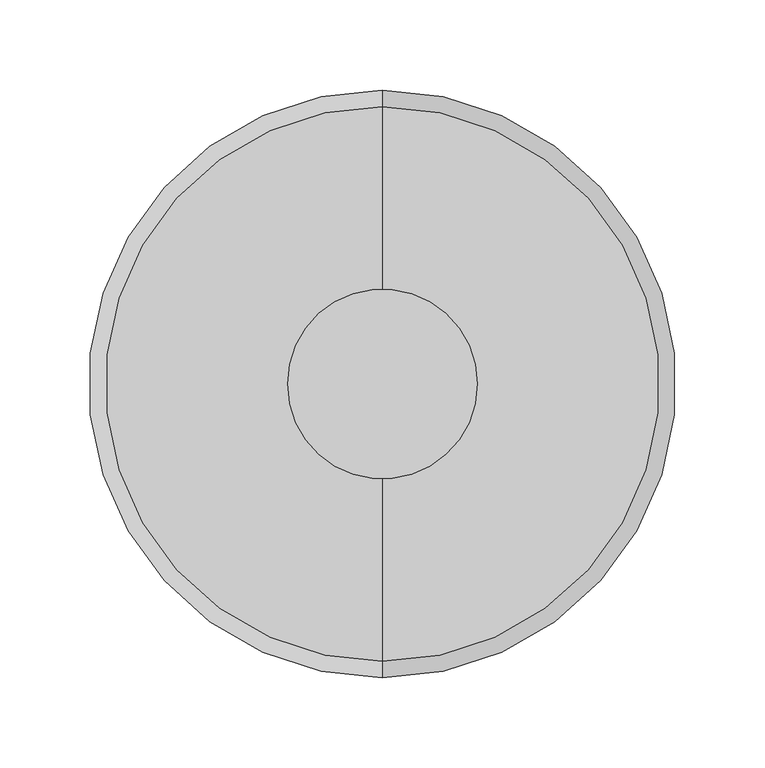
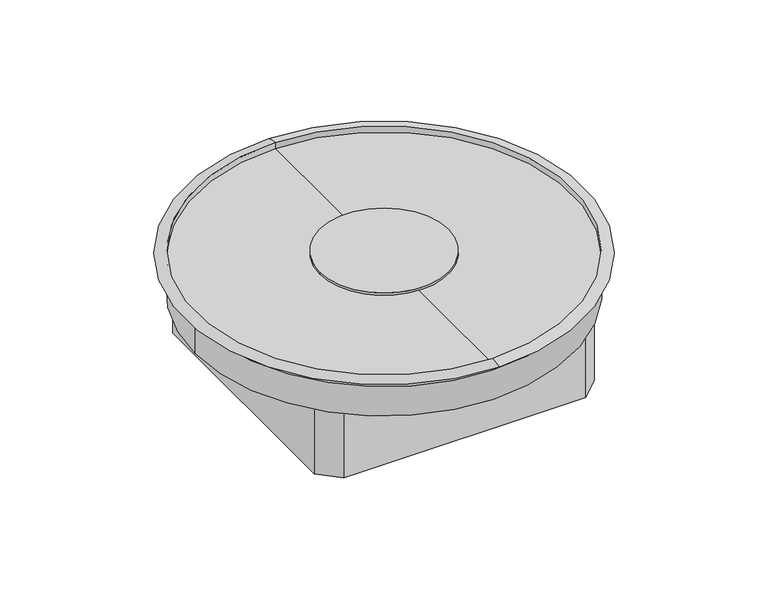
"""IFC4 building model written with IfcOpenShell, lengths in millimetres: proxy geometry, Electrical_Installation_Hager_VE-EE_VANR_3mm_Service-unit-for-wet-cleaned-floors-for-the-installation-tube-cable-outlet-made-of-aluminium : Service unit R12 w set HB wet Al-Tub 3mm."""

import ifcopenshell
import ifcopenshell.guid

model = None  # the IFC model being written
_history = None  # IfcOwnerHistory: only IFC2X3 demands one
_inside = {}  # id of a spatial element -> (the spatial element, [elements in it])
_under = {}  # id of a project, library or spatial element -> (it, [spatial elements below it])
_declared = {}  # id of a project -> (the project, [libraries it declares])
_typed = {}  # id of a type object -> (the type object, [elements of that type])
_made_of = {}  # id of a material, layer set ... -> (it, [elements and type objects made of it])


def new_model(schema):
    """Start an empty IFC model of exactly this schema.

    Asked for "IFC4X3", IfcOpenShell would pick the latest addendum, in which some entities
    have other attributes; the version numbers below select the first issue.
    IFC2X3 requires an IfcOwnerHistory on every rooted entity: one is made here for all.
    """
    global model, _history
    if schema == "IFC4X3":
        model = ifcopenshell.file(schema_version=(4, 3, 0, 0))
    else:
        model = ifcopenshell.file(schema=schema)
    _inside.clear()
    _under.clear()
    _declared.clear()
    _typed.clear()
    _made_of.clear()
    _history = None
    if model.schema == "IFC2X3":
        org = make("IfcOrganization", Name="unknown")
        user = make(
            "IfcPersonAndOrganization",
            ThePerson=make("IfcPerson", FamilyName="unknown"),
            TheOrganization=org,
        )
        app = make(
            "IfcApplication",
            ApplicationDeveloper=org,
            Version="unknown",
            ApplicationFullName="unknown",
            ApplicationIdentifier="unknown",
        )
        _history = make(
            "IfcOwnerHistory",
            OwningUser=user,
            OwningApplication=app,
            ChangeAction="ADDED",
            CreationDate=0,
        )
    return model


def make(cls, **values):
    """One entity of the class cls with the attributes given. An attribute that is None is left unset."""
    return model.create_entity(
        cls, **{name: value for name, value in values.items() if value is not None}
    )


def rooted(cls, **values):
    """An entity with a GlobalId (a new one), such as an element, a storey or a relation."""
    return make(cls, GlobalId=ifcopenshell.guid.new(), OwnerHistory=_history, **values)


def si_unit(unit_type, name, prefix=None):
    """IfcSIUnit, for example si_unit("LENGTHUNIT", "METRE", prefix="MILLI")."""
    return make("IfcSIUnit", UnitType=unit_type, Prefix=prefix, Name=name)


def assignment(units):
    """IfcUnitAssignment: the units of a project."""
    return None if units is None else make("IfcUnitAssignment", Units=units)


def point(xyz):
    """IfcCartesianPoint."""
    return None if xyz is None else make("IfcCartesianPoint", Coordinates=xyz)


def direction(xyz):
    """IfcDirection."""
    return None if xyz is None else make("IfcDirection", DirectionRatios=xyz)


def frame(location, z_axis=None, x_axis=None):
    """IfcAxis2Placement3D, a coordinate frame: its origin and axes. An axis left out is left unset."""
    return make(
        "IfcAxis2Placement3D",
        Location=point(location),
        Axis=direction(z_axis),
        RefDirection=direction(x_axis),
    )


def frame_2d(location, x_axis=None):
    """IfcAxis2Placement2D, a coordinate frame in the plane: its origin and x axis."""
    return make(
        "IfcAxis2Placement2D", Location=point(location), RefDirection=direction(x_axis)
    )


def origin():
    """The frame at (0, 0, 0) with its axes left unset."""
    return frame((0.0, 0.0, 0.0))


def origin_with_axes():
    """The frame at (0, 0, 0) with the z axis (0, 0, 1) and the x axis (1, 0, 0) written out."""
    return frame((0.0, 0.0, 0.0), z_axis=(0.0, 0.0, 1.0), x_axis=(1.0, 0.0, 0.0))


def origin_2d():
    """The frame at (0, 0) in the plane with its x axis left unset."""
    return frame_2d((0.0, 0.0))


def place(relative_to, where):
    """IfcLocalPlacement: puts the frame where relative to a parent placement (None: the world)."""
    return make(
        "IfcLocalPlacement", PlacementRelTo=relative_to, RelativePlacement=where
    )


def context(
    kind, dimensions, precision=None, world=None, true_north=None, identifier=None
):
    """IfcGeometricRepresentationContext, for example the 3D "Model" context."""
    return make(
        "IfcGeometricRepresentationContext",
        ContextIdentifier=identifier,
        ContextType=kind,
        CoordinateSpaceDimension=dimensions,
        Precision=precision,
        WorldCoordinateSystem=world,
        TrueNorth=true_north,
    )


def project(units=None, contexts=None):
    """IfcProject with its units and contexts."""
    return rooted(
        "IfcProject",
        Name="project",
        RepresentationContexts=contexts,
        UnitsInContext=assignment(units),
    )


def spatial(cls, under=None, at=None, **own):
    """A site, building, storey or space (cls), placed at a placement, below another one or the project."""
    s = rooted(cls, ObjectPlacement=at, **own)
    if under is not None:
        _under.setdefault(under.id(), (under, []))[1].append(s)
    return s


def polyline(points):
    """IfcPolyline through the points."""
    return make("IfcPolyline", Points=[point(p) for p in points])


def circle_curve(where, radius):
    """IfcCircle in the frame where."""
    return make("IfcCircle", Position=where, Radius=radius)


def ellipse_curve(where, semi_axis1, semi_axis2):
    """IfcEllipse in the frame where."""
    return make(
        "IfcEllipse", Position=where, SemiAxis1=semi_axis1, SemiAxis2=semi_axis2
    )


def trimmed(basis, trim1, trim2, sense, master):
    """IfcTrimmedCurve: the piece of a basis curve between two trims."""
    return make(
        "IfcTrimmedCurve",
        BasisCurve=basis,
        Trim1=trim1,
        Trim2=trim2,
        SenseAgreement=sense,
        MasterRepresentation=master,
    )


def segment(curve, same_sense, transition):
    """IfcCompositeCurveSegment."""
    return make(
        "IfcCompositeCurveSegment",
        Transition=transition,
        SameSense=same_sense,
        ParentCurve=curve,
    )


def composite_curve(segments, self_intersect=None):
    """IfcCompositeCurve: segments joined end to end."""
    return make("IfcCompositeCurve", Segments=segments, SelfIntersect=self_intersect)


def outline(outer, holes=None, kind="AREA"):
    """IfcArbitraryClosedProfileDef: a profile drawn as a closed curve; with holes, ...WithVoids."""
    if holes is None:
        return make("IfcArbitraryClosedProfileDef", ProfileType=kind, OuterCurve=outer)
    return make(
        "IfcArbitraryProfileDefWithVoids",
        ProfileType=kind,
        OuterCurve=outer,
        InnerCurves=holes,
    )


def extrude(swept, where, along, depth):
    """IfcExtrudedAreaSolid: the profile swept, set in the frame where, extruded along a direction by depth."""
    return make(
        "IfcExtrudedAreaSolid",
        SweptArea=swept,
        Position=where,
        ExtrudedDirection=direction(along),
        Depth=depth,
    )


def shape(context_of_items, identifier, shape_type, items):
    """IfcShapeRepresentation: the items that make up one representation, for example the "Body"."""
    return make(
        "IfcShapeRepresentation",
        ContextOfItems=context_of_items,
        RepresentationIdentifier=identifier,
        RepresentationType=shape_type,
        Items=items,
    )


def source(mapping_origin, context_of_items, identifier, shape_type, items):
    """IfcRepresentationMap: a shape defined once, which mapped items show again and again."""
    return make(
        "IfcRepresentationMap",
        MappingOrigin=mapping_origin,
        MappedRepresentation=shape(context_of_items, identifier, shape_type, items),
    )


def transform(
    local_origin,
    x_axis=None,
    y_axis=None,
    z_axis=None,
    scale=None,
    scale2=None,
    scale3=None,
    uniform=True,
):
    """IfcCartesianTransformationOperator3D, or its non-uniform kind. x_axis, y_axis, z_axis: its Axis1, 2, 3."""
    if uniform:
        return make(
            "IfcCartesianTransformationOperator3D",
            Axis1=direction(x_axis),
            Axis2=direction(y_axis),
            LocalOrigin=point(local_origin),
            Scale=scale,
            Axis3=direction(z_axis),
        )
    return make(
        "IfcCartesianTransformationOperator3DnonUniform",
        Axis1=direction(x_axis),
        Axis2=direction(y_axis),
        LocalOrigin=point(local_origin),
        Scale=scale,
        Axis3=direction(z_axis),
        Scale2=scale2,
        Scale3=scale3,
    )


def mapped(mapping_source, mapping_target):
    """IfcMappedItem: shows the shape of a source again, moved by a transform."""
    return make(
        "IfcMappedItem", MappingSource=mapping_source, MappingTarget=mapping_target
    )


def made_of(thing, what):
    """Note that an element or type object is made of a material, layer set ...; save() writes the relation."""
    if what is not None:
        _made_of.setdefault(what.id(), (what, []))[1].append(thing)
    return thing


def element(
    cls,
    number,
    at=None,
    inside=None,
    cuts=None,
    type_object=None,
    material=None,
    context=None,
    identifier="Body",
    shape_type=None,
    held_by="IfcProductDefinitionShape",
    body=None,
    shapes=None,
    **own,
):
    """One element of the class cls, such as IfcWall. Its Tag is "e" and its number.

    at: its placement. inside: the storey or other place that contains it. cuts: it is an
    opening in that element (IfcRelVoidsElement). A single representation is given by context,
    identifier, shape_type and body (its items); several are given by shapes. held_by: the class
    of the entity that holds the representations. save() writes the other relations.
    """
    e = rooted(cls, Tag="e%d" % number, ObjectPlacement=at, **own)
    if body is not None:
        shapes = [shape(context, identifier, shape_type, body)]
    if shapes is not None:
        e.Representation = make(held_by, Representations=shapes)
    if inside is not None:
        _inside.setdefault(inside.id(), (inside, []))[1].append(e)
    if cuts is not None:
        rooted(
            "IfcRelVoidsElement", RelatingBuildingElement=cuts, RelatedOpeningElement=e
        )
    if type_object is not None:
        _typed.setdefault(type_object.id(), (type_object, []))[1].append(e)
    return made_of(e, material)


def aggregate(whole, parts):
    """IfcRelAggregates: a whole, such as a stair, and the parts it consists of."""
    return rooted("IfcRelAggregates", RelatingObject=whole, RelatedObjects=parts)


def save(model, path):
    """Write the relations noted so far, then the file.

    IfcRelAggregates (storeys below a building ...), IfcRelContainedInSpatialStructure (elements
    in a storey), IfcRelDefinesByType, IfcRelAssociatesMaterial and IfcRelDeclares: one each for
    every whole, place, type object, material and project.
    """
    for whole, parts in _under.values():
        aggregate(whole, parts)
    for where, things in _inside.values():
        rooted(
            "IfcRelContainedInSpatialStructure",
            RelatedElements=things,
            RelatingStructure=where,
        )
    for kind, things in _typed.values():
        rooted("IfcRelDefinesByType", RelatedObjects=things, RelatingType=kind)
    for what, things in _made_of.values():
        rooted("IfcRelAssociatesMaterial", RelatedObjects=things, RelatingMaterial=what)
    for by, libraries in _declared.values():
        rooted("IfcRelDeclares", RelatingContext=by, RelatedDefinitions=libraries)
    model.write(path)


def plane_surface(at):
    """IfcPlane: the flat surface through the origin of the frame at, square to its z axis."""
    return make("IfcPlane", Position=at)


def cylinder_surface(at, radius):
    """IfcCylindricalSurface: all points at the distance radius from the z axis of the frame at."""
    return make("IfcCylindricalSurface", Position=at, Radius=radius)


def revolved_surface(curve, axis_point, axis_direction):
    """IfcSurfaceOfRevolution: the curve turned about the line through axis_point along axis_direction."""
    return make(
        "IfcSurfaceOfRevolution",
        SweptCurve=make("IfcArbitraryOpenProfileDef", ProfileType="CURVE", Curve=curve),
        AxisPosition=make("IfcAxis1Placement", Location=point(axis_point), Axis=direction(axis_direction)),
    )


def advanced_brep(points, edges, surfaces, faces):
    """IfcAdvancedBrep: a solid bounded by faces that lie on surfaces and meet in shared edges.

    An edge is (start, end): straight between two places in points (the first is 0);
    or (start, end, curve); or (start, end, curve, False) where it runs against its curve.
    A face is (place in surfaces, loops), or (place, loops, False) where it looks against
    its surface's normal. A loop lists edges by number (the first is 1), with a minus sign
    where the edge is run from its end to its start. The first loop is the outer one.
    """
    corners = [point(p) for p in points]
    vertices = [make("IfcVertexPoint", VertexGeometry=c) for c in corners]
    made = []
    for start, end, *more in edges:
        made.append(
            make(
                "IfcEdgeCurve",
                EdgeStart=vertices[start],
                EdgeEnd=vertices[end],
                EdgeGeometry=more[0] if more else make("IfcPolyline", Points=[corners[start], corners[end]]),
                SameSense=more[1] if len(more) > 1 else True,
            )
        )
    hull = []
    for where, loops, *sense in faces:
        bounds = []
        for j, loop in enumerate(loops):
            ring = [make("IfcOrientedEdge", EdgeElement=made[abs(k) - 1], Orientation=k > 0) for k in loop]
            bounds.append(
                make(
                    "IfcFaceOuterBound" if j == 0 else "IfcFaceBound",
                    Bound=make("IfcEdgeLoop", EdgeList=ring),
                    Orientation=True,
                )
            )
        hull.append(make("IfcAdvancedFace", Bounds=bounds, FaceSurface=surfaces[where], SameSense=sense[0] if sense else True))
    return make("IfcAdvancedBrep", Outer=make("IfcClosedShell", CfsFaces=hull))


def electrical_fixtures_e29cb0aa(model_context):
    return source(origin(), model_context, "Body", "SolidModel", [
        extrude(outline(composite_curve([segment(trimmed(circle_curve(origin_2d(), 52.5), [point((52.5, 0.0))], [point((-52.5, 0.0))], False, "CARTESIAN"), True, "CONTINUOUS"), segment(trimmed(circle_curve(origin_2d(), 52.5), [point((-52.5, 0.0))], [point((52.5, 0.0))], False, "CARTESIAN"), True, "CONTINUOUS")], self_intersect=False)), origin_with_axes(), (0.0, 0.0, 1.0), 2.0),
        advanced_brep(
        [(-154.0, 0.0, -33.0), (154.0, 0.0, -33.0), (154.0, 0.0, -7.8389514), (0.0, -154.0, -7.8389514), (-154.0, 0.0, -7.8389514), (0.0, 154.0, -7.8389514), (-114.5, -96.120731, -33.0), (-114.5, 96.120731, -33.0), (-114.5, 96.120731, -7.8389514), (-114.5, -96.120731, -7.8389514), (-96.120731, 114.5, -33.0), (-96.120731, 114.5, -7.8389514), (96.120731, 114.5, -33.0), (96.120731, 114.5, -7.8389514), (0.0, 114.5, -7.8389514), (114.5, 96.120731, -33.0), (114.5, 96.120731, -7.8389514), (114.5, -96.120731, -33.0), (114.5, -96.120731, -7.8389514), (96.120731, -114.5, -33.0), (96.120731, -114.5, -7.8389514), (-96.120731, -114.5, -33.0), (-96.120731, -114.5, -7.8389514), (0.0, -114.5, -7.8389514), (0.0, -153.5042598, -3.0), (0.0, 153.5042598, -3.0), (0.0, 153.5042598, 1.9903608), (0.0, -153.5042598, 1.9903608), (0.0, 0.0, -3.0), (0.0, 162.5, 0.0), (0.0, -162.5, 0.0), (0.0, 0.0, -7.8389514), (0.0, 154.0, 0.0), (0.0, -154.0, 0.0)],
        [
            (0, 1, circle_curve(frame((0.0, 0.0, -33.0), z_axis=(0.0, 0.0, 1.0), x_axis=(1.0, 0.0, 0.0)), 154.0)),
            (1, 2),
            (2, 3, circle_curve(frame((0.0, 0.0, -7.8389514), z_axis=(0.0, 0.0, -1.0), x_axis=(1.0, 0.0, 0.0)), 154.0)),
            (3, 4, circle_curve(frame((0.0, 0.0, -7.8389514), z_axis=(0.0, 0.0, -1.0), x_axis=(1.0, 0.0, 0.0)), 154.0)),
            (4, 0),
            (1, 0, circle_curve(frame((0.0, 0.0, -33.0), z_axis=(0.0, 0.0, 1.0), x_axis=(1.0, 0.0, 0.0)), 154.0)),
            (4, 5, circle_curve(frame((0.0, 0.0, -7.8389514), z_axis=(0.0, 0.0, -1.0), x_axis=(1.0, 0.0, 0.0)), 154.0)),
            (5, 2, circle_curve(frame((0.0, 0.0, -7.8389514), z_axis=(0.0, 0.0, -1.0), x_axis=(1.0, 0.0, 0.0)), 154.0)),
            (6, 7),
            (7, 8),
            (8, 9),
            (9, 6),
            (7, 10, circle_curve(frame((0.0, 0.0, -33.0), z_axis=(0.0, 0.0, -1.0), x_axis=(1.0, 0.0, 0.0)), 149.4973074)),
            (10, 11),
            (11, 8, circle_curve(frame((0.0, 0.0, -7.8389514), z_axis=(0.0, 0.0, 1.0), x_axis=(1.0, 0.0, 0.0)), 149.4973074)),
            (10, 12),
            (12, 13),
            (13, 14),
            (14, 11),
            (12, 15, circle_curve(frame((0.0, 0.0, -33.0), z_axis=(0.0, 0.0, -1.0), x_axis=(1.0, 0.0, 0.0)), 149.4973074)),
            (15, 16),
            (16, 13, circle_curve(frame((0.0, 0.0, -7.8389514), z_axis=(0.0, 0.0, 1.0), x_axis=(1.0, 0.0, 0.0)), 149.4973074)),
            (15, 17),
            (17, 18),
            (18, 16),
            (17, 19, circle_curve(frame((0.0, 0.0, -33.0), z_axis=(0.0, 0.0, -1.0), x_axis=(1.0, 0.0, 0.0)), 149.4973074)),
            (19, 20),
            (20, 18, circle_curve(frame((0.0, 0.0, -7.8389514), z_axis=(0.0, 0.0, 1.0), x_axis=(1.0, 0.0, 0.0)), 149.4973074)),
            (19, 21),
            (21, 22),
            (22, 23),
            (23, 20),
            (21, 6, circle_curve(frame((0.0, 0.0, -33.0), z_axis=(0.0, 0.0, -1.0), x_axis=(1.0, 0.0, 0.0)), 149.4973074)),
            (9, 22, circle_curve(frame((0.0, 0.0, -7.8389514), z_axis=(0.0, 0.0, 1.0), x_axis=(1.0, 0.0, 0.0)), 149.4973074)),
            (24, 25, circle_curve(frame((0.0, 0.0, -3.0), z_axis=(0.0, 0.0, -1.0), x_axis=(0.0, 1.0, 0.0)), 153.5042598)),
            (25, 26),
            (26, 27, circle_curve(frame((0.0, 0.0, 1.9903608), z_axis=(0.0, 0.0, 1.0), x_axis=(0.0, 1.0, 0.0)), 153.5042598)),
            (27, 24),
            (25, 24, circle_curve(frame((0.0, 0.0, -3.0), z_axis=(0.0, 0.0, -1.0), x_axis=(0.0, 1.0, 0.0)), 153.5042598)),
            (27, 26, circle_curve(frame((0.0, 0.0, 1.9903608), z_axis=(0.0, 0.0, 1.0), x_axis=(0.0, 1.0, 0.0)), 153.5042598)),
            (24, 28),
            (28, 25),
            (26, 29, circle_curve(frame((0.0, 153.3087254, -20.2173795), z_axis=(-1.0, 0.0, 0.0), x_axis=(0.0, 1.0, 0.0)), 22.2086011)),
            (29, 30, circle_curve(frame((0.0, 0.0, 0.0), z_axis=(0.0, 0.0, 1.0), x_axis=(0.0, 1.0, 0.0)), 162.5)),
            (30, 27, circle_curve(frame((0.0, -153.3087254, -20.2173795), z_axis=(-1.0, 0.0, 0.0), x_axis=(0.0, -1.0, 0.0)), 22.2086011)),
            (30, 29, circle_curve(frame((0.0, 0.0, 0.0), z_axis=(0.0, 0.0, 1.0), x_axis=(0.0, 1.0, 0.0)), 162.5)),
            (14, 31),
            (31, 23),
            (29, 32),
            (32, 33, circle_curve(frame((0.0, 0.0, 0.0), z_axis=(0.0, 0.0, 1.0), x_axis=(0.0, 1.0, 0.0)), 154.0)),
            (33, 30),
            (33, 32, circle_curve(frame((0.0, 0.0, 0.0), z_axis=(0.0, 0.0, 1.0), x_axis=(0.0, 1.0, 0.0)), 154.0)),
            (32, 5),
            (3, 33),
        ],
        [
            cylinder_surface(frame((0.0, 0.0, -33.0), z_axis=(0.0, 0.0, 1.0), x_axis=(1.0, 0.0, 0.0)), 154.0),
            plane_surface(frame((-114.5, -96.120731, -7.8389514), z_axis=(1.0, 0.0, 0.0), x_axis=(0.0, 0.0, -1.0))),
            revolved_surface(polyline([(149.4973074, 0.0, -33.0), (149.4973074, 0.0, -7.8389514)]), (0.0, 0.0, 0.0), (0.0, 0.0, -1.0)),
            plane_surface(frame((-96.120731, 114.5, -7.8389514), z_axis=(0.0, -1.0, 0.0), x_axis=(0.0, 0.0, -1.0))),
            plane_surface(frame((114.5, 96.120731, -7.8389514), z_axis=(-1.0, 0.0, 0.0), x_axis=(0.0, 0.0, -1.0))),
            plane_surface(frame((96.120731, -114.5, -7.8389514), z_axis=(0.0, 1.0, 0.0), x_axis=(0.0, 0.0, -1.0))),
            plane_surface(frame((154.0, 0.0, -33.0), z_axis=(0.0, 0.0, -1.0), x_axis=(0.0, -1.0, 0.0))),
            revolved_surface(polyline([(0.0, 153.5042598, 1.9903607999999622), (0.0, 153.5042598, -3.0)]), (0.0, 0.0, 2341.8067943), (0.0, 0.0, 1.0)),
            plane_surface(frame((0.0, 0.0, -3.0), z_axis=(0.0, 0.0, 1.0), x_axis=(0.0, 1.0, 0.0))),
            revolved_surface(trimmed(ellipse_curve(frame((0.0, 153.3087254, -20.2173795), z_axis=(1.0, 0.0, 0.0), x_axis=(0.0, 1.0, 0.0)), 22.2086011, 22.2086011), [point((0.0, 162.5, 0.0))], [point((0.0, 153.5042598, 1.9903608))], True, "CARTESIAN"), (0.0, 0.0, 2341.8067943), (0.0, 0.0, 1.0)),
            plane_surface(frame((0.0, 0.0, -7.8389514), z_axis=(0.0, 0.0, -1.0), x_axis=(0.0, 1.0, 0.0))),
            plane_surface(frame((0.0, 0.0, 0.0), z_axis=(0.0, 0.0, -1.0), x_axis=(0.0, 1.0, 0.0))),
            cylinder_surface(frame((0.0, 0.0, 2341.8067943), z_axis=(0.0, 0.0, 1.0), x_axis=(0.0, 1.0, 0.0)), 154.0),
        ],
        [
            (0, [[1, 2, 3, 4, 5]]),
            (0, [[6, -5, 7, 8, -2]]),
            (1, [[9, 10, 11, 12]]),
            (2, [[13, 14, 15, -10]]),
            (3, [[16, 17, 18, 19, -14]]),
            (2, [[20, 21, 22, -17]]),
            (4, [[23, 24, 25, -21]]),
            (2, [[26, 27, 28, -24]]),
            (5, [[29, 30, 31, 32, -27]]),
            (2, [[33, -12, 34, -30]]),
            (6, [[-6, -1], [-33, -29, -26, -23, -20, -16, -13, -9]]),
            (7, [[35, 36, 37, 38]]),
            (7, [[-36, 39, -38, 40]]),
            (8, [[-35, 41, 42]]),
            (8, [[-39, -42, -41]]),
            (9, [[-37, 43, 44, 45]]),
            (9, [[-40, -45, 46, -43]]),
            (10, [[47, 48, -31, -34, -11, -15, -19]]),
            (10, [[-47, -18, -22, -25, -28, -32, -48]]),
            (11, [[-44, 49, 50, 51]]),
            (11, [[-46, -51, 52, -49]]),
            (12, [[-50, 53, -7, -4, 54]]),
            (12, [[-53, -52, -54, -3, -8]]),
        ],
    ),
        extrude(outline(polyline([(-99.0882065, 114.5), (99.3942383, 114.5), (114.5, 99.0262113), (114.5, -98.7169494), (98.5882125, -114.5), (-98.7359175, -114.5), (-114.5, -99.7976183), (-114.5, 100.165624), (-99.0882065, 114.5)]), holes=[polyline([(111.0181904, 98.7695063), (98.7659338, 111.5), (-98.7903505, 111.5), (-111.5, 98.7903505), (-111.5, -98.7903505), (-98.7903505, -111.5), (98.2048826, -111.5), (111.0181904, -96.4986902), (111.0181904, 98.7695063)])]), frame((0.0, 0.0, -90.0), z_axis=(0.0, 0.0, 1.0), x_axis=(1.0, 0.0, 0.0)), (0.0, 0.0, 1.0), 57.0),
    ])


if __name__ == "__main__":
    model = new_model("IFC4")
    model_context = context("Model", 3, world=origin())
    ifc_project = project(units=[si_unit("LENGTHUNIT", "METRE", prefix="MILLI")], contexts=[model_context])
    site = spatial("IfcSite", under=ifc_project)
    building = spatial("IfcBuilding", under=site)
    placement = place(None, origin())
    electrical_fixtures_shape = electrical_fixtures_e29cb0aa(model_context)
    element("IfcBuildingElementProxy", 1, Name="Electrical_Installation_Hager_VE-EE_VANR_3mm_Service-unit-for-wet-cleaned-floors-for-the-installation-tube-cable-outlet-made-of-aluminium : Service unit R12 w set HB wet Al-Tub 3mm", ObjectType="Electrical_Installation_Hager_VE-EE_VANR_3mm_Service-unit-for-wet-cleaned-floors-for-the-installation-tube-cable-outlet-made-of-aluminium : Service unit R12 w set HB wet Al-Tub 3mm", at=placement, inside=building, context=model_context, shape_type="MappedRepresentation", body=[
        mapped(electrical_fixtures_shape, transform((0.0, 0.0, 0.0), x_axis=(1.0, 0.0, 0.0), y_axis=(0.0, 1.0, 0.0), z_axis=(0.0, 0.0, 1.0))),
    ])
    save(model, "model.ifc")
